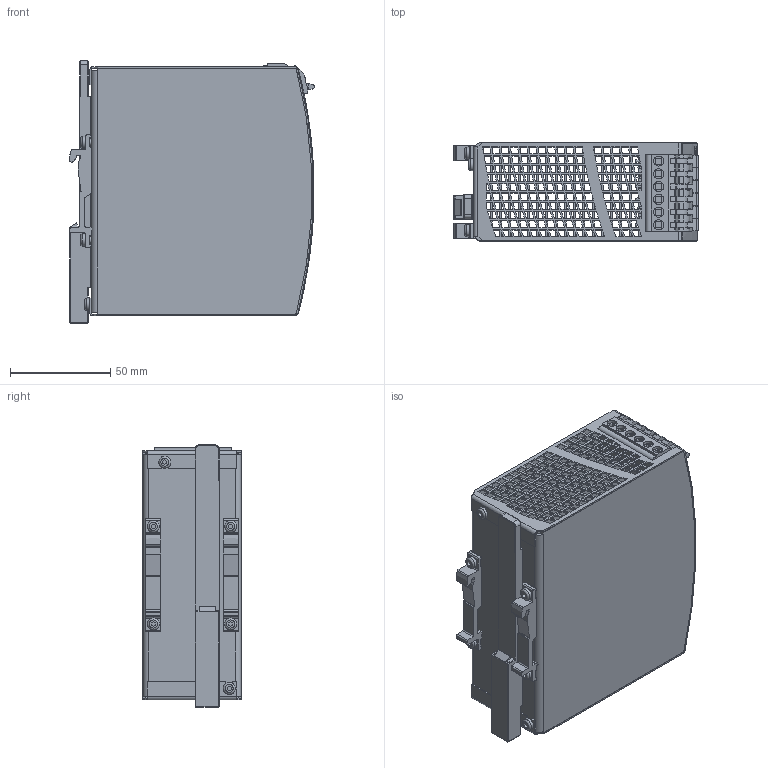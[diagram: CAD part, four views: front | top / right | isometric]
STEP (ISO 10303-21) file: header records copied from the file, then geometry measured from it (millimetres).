
FILE_DESCRIPTION((''),'2;1');
FILE_NAME('C:\Users\rahns\Desktop\Marketing\SD1UB10-242SR1_SC_2014-07-02.stp','2014-07-02T11:01:31',('rahns'),(''),'Autodesk Inventor 2009','Autodesk Inventor 2009','');
FILE_SCHEMA(('AUTOMOTIVE_DESIGN { 1 0 10303 214 1 1 1 1 }'));
Length unit declared in the file: millimetre
Products named in the file (13): 357; HOUSING BODY 357; T HOLDER; SLIDER; SCREW 3x6; LED RD; LED GN; LED YE; HOUSING COVER 357; TERMINAL 8P-H4; TERMINAL 6P R6,35; FRONTFOIL 357; POTI RA-10K
Assembly tree (18 placements, depth 2):
  357
    HOUSING BODY 357
    T HOLDER  x2
    SLIDER
    SCREW 3x6  x6
    LED RD
    LED GN
    LED YE
    HOUSING COVER 357
    TERMINAL 8P-H4
    TERMINAL 6P R6,35
    FRONTFOIL 357
    POTI RA-10K
Bounding box: 121.71 x 49 x 130.5 mm (x, y, z)
Volume: 85207.3 mm3; surface area: 121569.2 mm2
Topology: 18 solids, 18 shells, 4211 faces, 11652 edges, 7714 vertices
Faces by surface type: plane 2681, bspline 802, cylinder 698, cone 12, torus 10, sphere 8
Full cylindrical faces by diameter (mm): 0.2 x2, 1.25 x6, 1.4 x8, 2.45 x2, 2.8 x8, 3 x6, 3.1 x4, 3.5 x3, 4.5 x3, 4.6 x3, 4.9 x1, 5 x7, 5.5 x2, 6 x6
Entity records: 145745 total; most frequent: CARTESIAN_POINT 42967, ORIENTED_EDGE 22500, DIRECTION 18319, EDGE_CURVE 11250, VECTOR 7495, LINE 7495, VERTEX_POINT 7470, AXIS2_PLACEMENT_3D 5412
